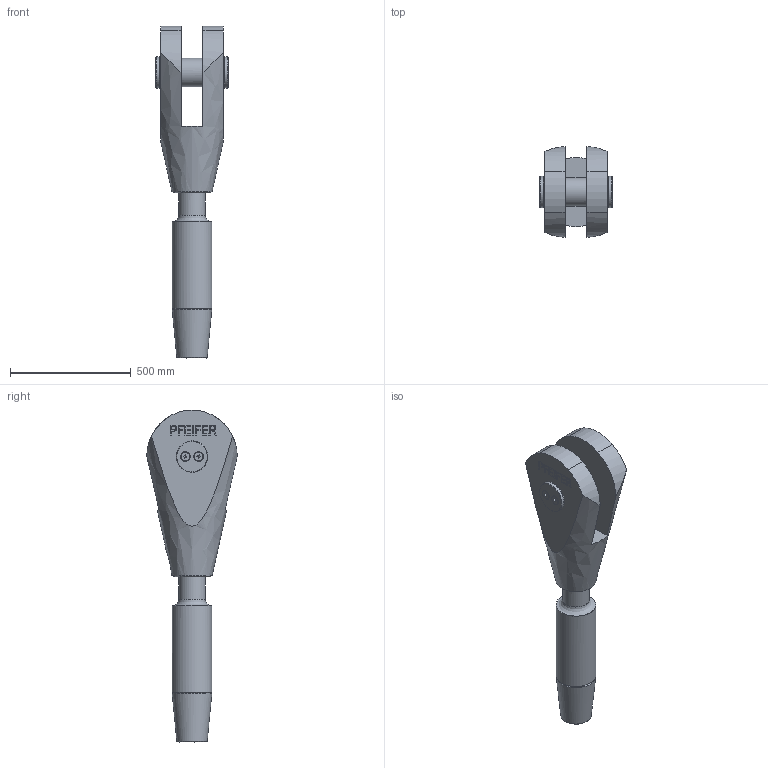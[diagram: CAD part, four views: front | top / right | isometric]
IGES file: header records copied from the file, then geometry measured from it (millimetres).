
Global section: file name: 520-110-GAK-ADA; native system: Autodesk Inventor 2016; preprocessor: unknown; author: Administrator; date: 20200703.131627; units: centimetre
Bounding box: 302 x 374.92 x 1376 mm (x, y, z)
Volume: 43175461.9 mm3; surface area: 1460489.7 mm2
Topology: 2 solids, 10 shells, 248 faces, 653 edges, 440 vertices
Faces by surface type: bspline 248
